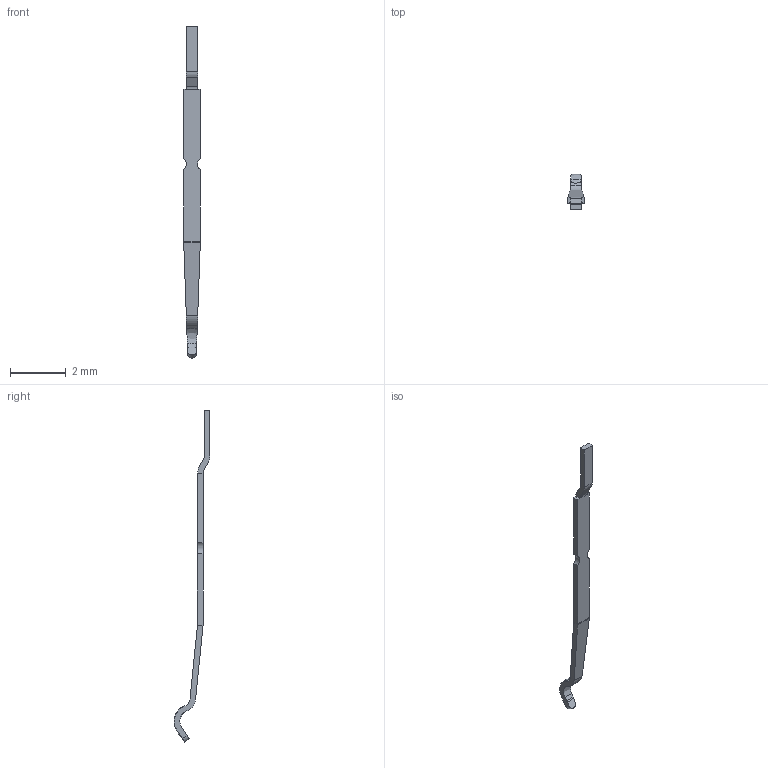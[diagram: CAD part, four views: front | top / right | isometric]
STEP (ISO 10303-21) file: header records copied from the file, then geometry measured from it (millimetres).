
FILE_DESCRIPTION((''),'2;1');
FILE_NAME('T-DSC20-100X00_1_PRT','2008-06-30T',('GRA'),(''),'PRO/ENGINEER BY PARAMETRIC TECHNOLOGY CORPORATION, 2006170','PRO/ENGINEER BY PARAMETRIC TECHNOLOGY CORPORATION, 2006170','');
FILE_SCHEMA(('CONFIG_CONTROL_DESIGN'));
Length unit declared in the file: millimetre
Products named in the file (1): T-DSC20-100X00_1_PRT
Bounding box: 0.6 x 1.29 x 11.95 mm (x, y, z)
Volume: 1.2 mm3; surface area: 17.4 mm2
Topology: 1 solids, 1 shells, 47 faces, 129 edges, 84 vertices
Faces by surface type: plane 24, cylinder 17, bspline 6
Entity records: 1706 total; most frequent: CARTESIAN_POINT 535, ORIENTED_EDGE 258, DIRECTION 205, EDGE_CURVE 129, VERTEX_POINT 84, AXIS2_PLACEMENT_3D 69, VECTOR 67, LINE 67
